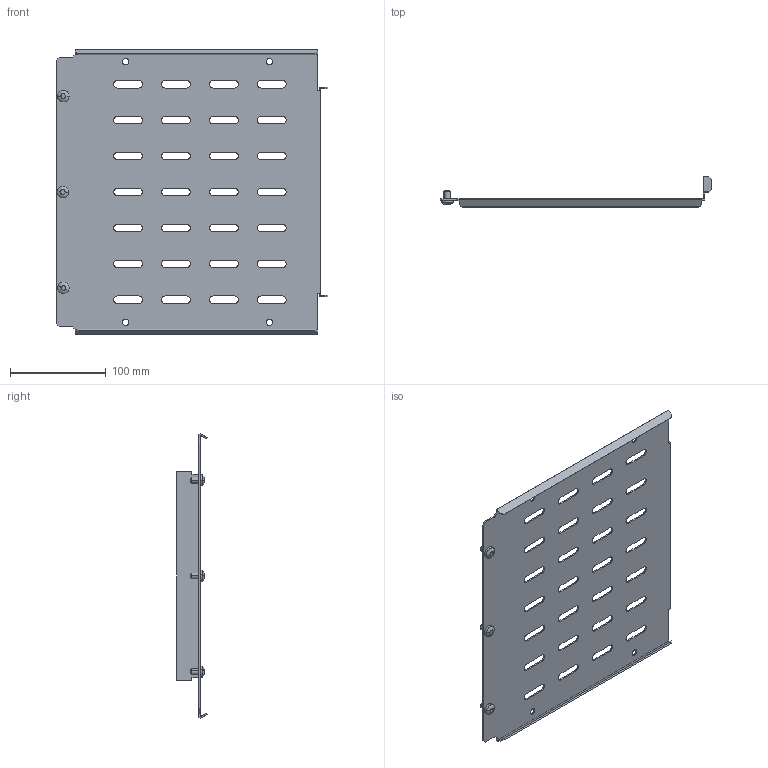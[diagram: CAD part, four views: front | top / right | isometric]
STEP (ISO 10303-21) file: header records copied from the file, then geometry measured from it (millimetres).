
FILE_DESCRIPTION (( 'STEP AP214' ), '1' );
FILE_NAME ('FO-00-SWFÑ-030 Ïåðåãîðîäêà ñåêöèîíèðîâàíèÿ çàäíÿÿ äëÿ âåðòèêàëüíîãî êàáåëüíîãî îòñåêà âûñîòà 300 ìì â øêàô øèðèíîé 600 ìì.STEP', '2025-08-13T12:30:00', ( '' ), ( '' ), 'SwSTEP 2.0', 'SolidWorks 2023', '' );
FILE_SCHEMA (( 'AUTOMOTIVE_DESIGN' ));
Length unit declared in the file: millimetre
Products named in the file (1): FO-00-SWFС-030 Перегородка секционирования задняя для вертикального кабельного отсека высота 300 мм в шкаф шириной 600 мм
Bounding box: 283.5 x 31.66 x 297.2 mm (x, y, z)
Volume: 127517.6 mm3; surface area: 173684.2 mm2
Topology: 1 solids, 1 shells, 269 faces, 765 edges, 504 vertices
Faces by surface type: cylinder 127, plane 124, torus 6, cone 6, sphere 6
Entity records: 9018 total; most frequent: CARTESIAN_POINT 1740, ORIENTED_EDGE 1530, DIRECTION 1487, EDGE_CURVE 765, VERTEX_POINT 504, AXIS2_PLACEMENT_3D 503, VECTOR 481, LINE 481
